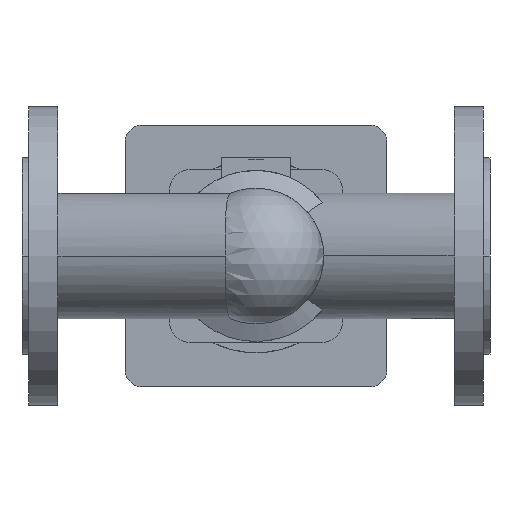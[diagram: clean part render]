
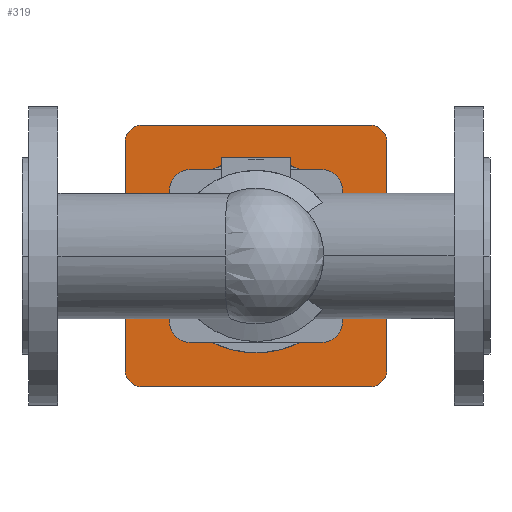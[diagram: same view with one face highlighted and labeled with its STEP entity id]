
A CAD part, front view. The second image highlights one B-rep face of the part: STEP entity #319.
In plain terms, the highlighted planar face has unit normal (0, -1, 0).
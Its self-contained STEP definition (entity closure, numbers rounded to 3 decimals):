
#319 = ADVANCED_FACE( '', ( #793, #794 ), #795, .F. );
#793 = FACE_OUTER_BOUND( '', #1293, .T. );
#794 = FACE_BOUND( '', #1294, .T. );
#795 = PLANE( '', #1295 );
#1293 = EDGE_LOOP( '', ( #2908, #2909, #2910, #2911, #2912, #2913, #2914, #2915 ) );
#1294 = EDGE_LOOP( '', ( #2916, #2917 ) );
#1295 = AXIS2_PLACEMENT_3D( '', #2918, #2919, #2920 );
#2908 = ORIENTED_EDGE( '', *, *, #3587, .F. );
#2909 = ORIENTED_EDGE( '', *, *, #3588, .F. );
#2910 = ORIENTED_EDGE( '', *, *, #3589, .F. );
#2911 = ORIENTED_EDGE( '', *, *, #3590, .F. );
#2912 = ORIENTED_EDGE( '', *, *, #3591, .F. );
#2913 = ORIENTED_EDGE( '', *, *, #3592, .F. );
#2914 = ORIENTED_EDGE( '', *, *, #3593, .F. );
#2915 = ORIENTED_EDGE( '', *, *, #3594, .F. );
#2916 = ORIENTED_EDGE( '', *, *, #3502, .F. );
#2917 = ORIENTED_EDGE( '', *, *, #3595, .F. );
#2918 = CARTESIAN_POINT( '', ( 145., 667.5, 0. ) );
#2919 = DIRECTION( '', ( 0., 1., 0. ) );
#2920 = DIRECTION( '', ( 0., 0., 1. ) );
#3502 = EDGE_CURVE( '', #4327, #4330, #4331, .T. );
#3587 = EDGE_CURVE( '', #4474, #4475, #4476, .T. );
#3588 = EDGE_CURVE( '', #4477, #4474, #4478, .T. );
#3589 = EDGE_CURVE( '', #4479, #4477, #4480, .T. );
#3590 = EDGE_CURVE( '', #4481, #4479, #4482, .T. );
#3591 = EDGE_CURVE( '', #4483, #4481, #4484, .T. );
#3592 = EDGE_CURVE( '', #4485, #4483, #4486, .T. );
#3593 = EDGE_CURVE( '', #4487, #4485, #4488, .T. );
#3594 = EDGE_CURVE( '', #4475, #4487, #4489, .T. );
#3595 = EDGE_CURVE( '', #4330, #4327, #4490, .T. );
#4327 = VERTEX_POINT( '', #5972 );
#4330 = VERTEX_POINT( '', #5976 );
#4331 = CIRCLE( '', #5977, 40. );
#4474 = VERTEX_POINT( '', #6175 );
#4475 = VERTEX_POINT( '', #6176 );
#4476 = CIRCLE( '', #6177, 10. );
#4477 = VERTEX_POINT( '', #6178 );
#4478 = LINE( '', #6179, #6180 );
#4479 = VERTEX_POINT( '', #6181 );
#4480 = CIRCLE( '', #6182, 10. );
#4481 = VERTEX_POINT( '', #6183 );
#4482 = LINE( '', #6184, #6185 );
#4483 = VERTEX_POINT( '', #6186 );
#4484 = CIRCLE( '', #6187, 10. );
#4485 = VERTEX_POINT( '', #6188 );
#4486 = LINE( '', #6189, #6190 );
#4487 = VERTEX_POINT( '', #6191 );
#4488 = CIRCLE( '', #6192, 10. );
#4489 = LINE( '', #6193, #6194 );
#4490 = CIRCLE( '', #6195, 40. );
#5972 = CARTESIAN_POINT( '', ( 105., 667.5, 0. ) );
#5976 = CARTESIAN_POINT( '', ( 185., 667.5, 0. ) );
#5977 = AXIS2_PLACEMENT_3D( '', #7044, #7045, #7046 );
#6175 = CARTESIAN_POINT( '', ( 64., 667.5, 71. ) );
#6176 = CARTESIAN_POINT( '', ( 74., 667.5, 81. ) );
#6177 = AXIS2_PLACEMENT_3D( '', #7189, #7190, #7191 );
#6178 = CARTESIAN_POINT( '', ( 64., 667.5, -71. ) );
#6179 = CARTESIAN_POINT( '', ( 64., 667.5, -71. ) );
#6180 = VECTOR( '', #7192, 1. );
#6181 = CARTESIAN_POINT( '', ( 74., 667.5, -81. ) );
#6182 = AXIS2_PLACEMENT_3D( '', #7193, #7194, #7195 );
#6183 = CARTESIAN_POINT( '', ( 216., 667.5, -81. ) );
#6184 = CARTESIAN_POINT( '', ( 216., 667.5, -81. ) );
#6185 = VECTOR( '', #7196, 1. );
#6186 = CARTESIAN_POINT( '', ( 226., 667.5, -71. ) );
#6187 = AXIS2_PLACEMENT_3D( '', #7197, #7198, #7199 );
#6188 = CARTESIAN_POINT( '', ( 226., 667.5, 71. ) );
#6189 = CARTESIAN_POINT( '', ( 226., 667.5, 71. ) );
#6190 = VECTOR( '', #7200, 1. );
#6191 = CARTESIAN_POINT( '', ( 216., 667.5, 81. ) );
#6192 = AXIS2_PLACEMENT_3D( '', #7201, #7202, #7203 );
#6193 = CARTESIAN_POINT( '', ( 74., 667.5, 81. ) );
#6194 = VECTOR( '', #7204, 1. );
#6195 = AXIS2_PLACEMENT_3D( '', #7205, #7206, #7207 );
#7044 = CARTESIAN_POINT( '', ( 145., 667.5, 0. ) );
#7045 = DIRECTION( '', ( 0., -1., 0. ) );
#7046 = DIRECTION( '', ( -1., 0., 0. ) );
#7189 = CARTESIAN_POINT( '', ( 74., 667.5, 71. ) );
#7190 = DIRECTION( '', ( 0., 1., 0. ) );
#7191 = DIRECTION( '', ( -1., 0., 0. ) );
#7192 = DIRECTION( '', ( 0., 0., 1. ) );
#7193 = CARTESIAN_POINT( '', ( 74., 667.5, -71. ) );
#7194 = DIRECTION( '', ( 0., 1., 0. ) );
#7195 = DIRECTION( '', ( 0., 0., -1. ) );
#7196 = DIRECTION( '', ( -1., 0., 0. ) );
#7197 = CARTESIAN_POINT( '', ( 216., 667.5, -71. ) );
#7198 = DIRECTION( '', ( 0., 1., 0. ) );
#7199 = DIRECTION( '', ( 1., 0., 0. ) );
#7200 = DIRECTION( '', ( 0., 0., -1. ) );
#7201 = CARTESIAN_POINT( '', ( 216., 667.5, 71. ) );
#7202 = DIRECTION( '', ( 0., 1., 0. ) );
#7203 = DIRECTION( '', ( 0., 0., 1. ) );
#7204 = DIRECTION( '', ( 1., 0., 0. ) );
#7205 = CARTESIAN_POINT( '', ( 145., 667.5, 0. ) );
#7206 = DIRECTION( '', ( 0., -1., 0. ) );
#7207 = DIRECTION( '', ( -1., 0., 0. ) );
